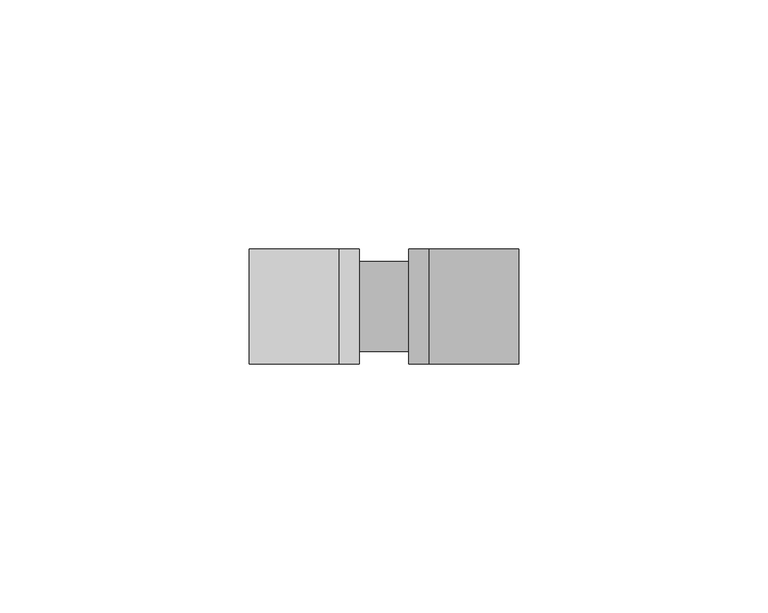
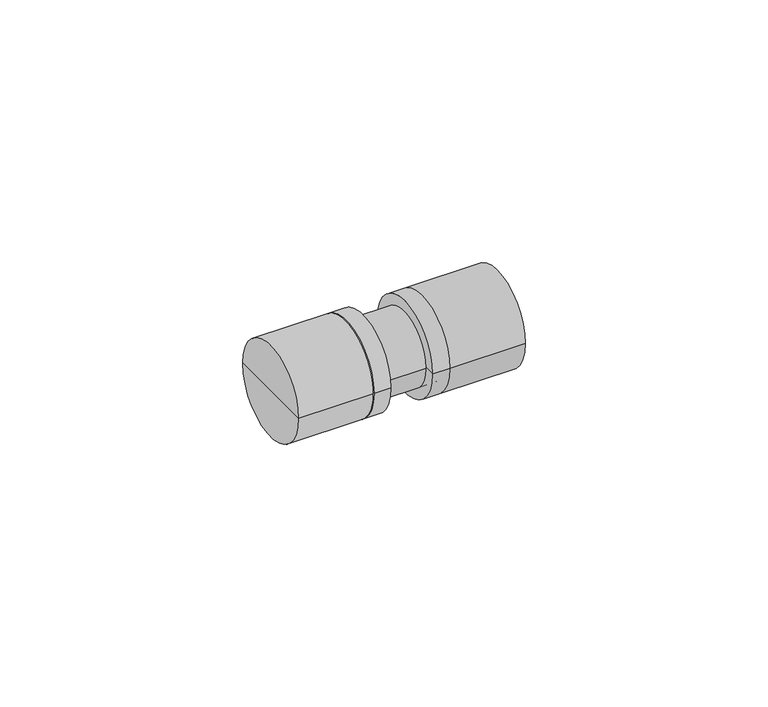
"""IFC4 building model written with IfcOpenShell, lengths in millimetres: pipe fitting geometry, KAN-therm Push 18x2 łącznik PPSU : KAN-therm Push 18x2 łącznik PPSU."""

from ifc_helpers import new_model, si_unit, frame, origin, place, context, project, spatial, circle_curve, source, transform, mapped, element, save
from ifc_brep_helpers import plane_surface, cylinder_surface, advanced_brep


def pipe_fitting_8b100cbf(model_context):
    return source(origin(), model_context, "Body", "AdvancedBrep", [
        advanced_brep(
        [(-9.0, -11.5, 0.0), (-9.0, 0.0, 0.0), (-9.0, 11.5, 0.0), (-5.0, -11.5, 0.0), (-5.0, 11.5, 0.0), (-5.0, 0.0, 0.0)],
        [
            (0, 1),
            (1, 2),
            (2, 0, circle_curve(frame((-9.0, 0.0, 0.0), z_axis=(-1.0, 0.0, 0.0), x_axis=(0.0, 1.0, 0.0)), 11.5)),
            (0, 2, circle_curve(frame((-9.0, 0.0, 0.0), z_axis=(-1.0, 0.0, 0.0), x_axis=(0.0, 1.0, 0.0)), 11.5)),
            (3, 0),
            (2, 4),
            (4, 3, circle_curve(frame((-5.0, 0.0, 0.0), z_axis=(-1.0, 0.0, 0.0), x_axis=(0.0, 1.0, 0.0)), 11.5)),
            (3, 4, circle_curve(frame((-5.0, 0.0, 0.0), z_axis=(-1.0, 0.0, 0.0), x_axis=(0.0, 1.0, 0.0)), 11.5)),
            (5, 3),
            (4, 5),
        ],
        [
            plane_surface(frame((-9.0, 0.0, 0.0), z_axis=(-1.0, 0.0, 0.0), x_axis=(0.0, 1.0, 0.0))),
            cylinder_surface(frame((-2004.0, 0.0, 0.0), z_axis=(1.0, 0.0, 0.0), x_axis=(0.0, 1.0, 0.0)), 11.5),
            plane_surface(frame((-5.0, 0.0, 0.0), z_axis=(1.0, 0.0, 0.0), x_axis=(0.0, 1.0, 0.0))),
        ],
        [
            (0, [[1, 2, 3]]),
            (0, [[-2, -1, 4]]),
            (1, [[5, -3, 6, 7]]),
            (1, [[-6, -4, -5, 8]]),
            (2, [[9, -7, 10]]),
            (2, [[-10, -8, -9]]),
        ],
    ),
        advanced_brep(
        [(-27.0, -11.5, 0.0), (-27.0, 0.0, 0.0), (-27.0, 11.5, 0.0), (-9.0, -11.5, 0.0), (-9.0, 11.5, 0.0), (-9.0, 0.0, 0.0)],
        [
            (0, 1),
            (1, 2),
            (2, 0, circle_curve(frame((-27.0, 0.0, 0.0), z_axis=(-1.0, 0.0, 0.0), x_axis=(0.0, 1.0, 0.0)), 11.5)),
            (0, 2, circle_curve(frame((-27.0, 0.0, 0.0), z_axis=(-1.0, 0.0, 0.0), x_axis=(0.0, 1.0, 0.0)), 11.5)),
            (3, 0),
            (2, 4),
            (4, 3, circle_curve(frame((-9.0, 0.0, 0.0), z_axis=(-1.0, 0.0, 0.0), x_axis=(0.0, 1.0, 0.0)), 11.5)),
            (3, 4, circle_curve(frame((-9.0, 0.0, 0.0), z_axis=(-1.0, 0.0, 0.0), x_axis=(0.0, 1.0, 0.0)), 11.5)),
            (5, 3),
            (4, 5),
        ],
        [
            plane_surface(frame((-27.0, 0.0, 0.0), z_axis=(-1.0, 0.0, 0.0), x_axis=(0.0, 1.0, 0.0))),
            cylinder_surface(frame((-2004.0, 0.0, 0.0), z_axis=(1.0, 0.0, 0.0), x_axis=(0.0, 1.0, 0.0)), 11.5),
            plane_surface(frame((-9.0, 0.0, 0.0), z_axis=(1.0, 0.0, 0.0), x_axis=(0.0, 1.0, 0.0))),
        ],
        [
            (0, [[1, 2, 3]]),
            (0, [[-2, -1, 4]]),
            (1, [[5, -3, 6, 7]]),
            (1, [[-6, -4, -5, 8]]),
            (2, [[9, -7, 10]]),
            (2, [[-10, -8, -9]]),
        ],
    ),
        advanced_brep(
        [(9.0, -11.5, 0.0), (9.0, 11.5, 0.0), (9.0, 0.0, 0.0), (5.0, -11.5, 0.0), (5.0, 11.5, 0.0), (5.0, 0.0, 0.0)],
        [
            (0, 1, circle_curve(frame((9.0, 0.0, 0.0), z_axis=(1.0, 0.0, 0.0), x_axis=(0.0, 1.0, 0.0)), 11.5)),
            (1, 2),
            (2, 0),
            (1, 0, circle_curve(frame((9.0, 0.0, 0.0), z_axis=(1.0, 0.0, 0.0), x_axis=(0.0, 1.0, 0.0)), 11.5)),
            (3, 4, circle_curve(frame((5.0, 0.0, 0.0), z_axis=(1.0, 0.0, 0.0), x_axis=(0.0, 1.0, 0.0)), 11.5)),
            (4, 1),
            (0, 3),
            (4, 3, circle_curve(frame((5.0, 0.0, 0.0), z_axis=(1.0, 0.0, 0.0), x_axis=(0.0, 1.0, 0.0)), 11.5)),
            (5, 4),
            (3, 5),
        ],
        [
            plane_surface(frame((9.0, 0.0, 0.0), z_axis=(1.0, 0.0, 0.0), x_axis=(0.0, 1.0, 0.0))),
            cylinder_surface(frame((2004.0, 0.0, 0.0), z_axis=(-1.0, 0.0, 0.0), x_axis=(0.0, 1.0, 0.0)), 11.5),
            plane_surface(frame((5.0, 0.0, 0.0), z_axis=(-1.0, 0.0, 0.0), x_axis=(0.0, 1.0, 0.0))),
        ],
        [
            (0, [[1, 2, 3]]),
            (0, [[4, -3, -2]]),
            (1, [[5, 6, -1, 7]]),
            (1, [[8, -7, -4, -6]]),
            (2, [[9, -5, 10]]),
            (2, [[-10, -8, -9]]),
        ],
    ),
        advanced_brep(
        [(27.0, -11.5, 0.0), (27.0, 11.5, 0.0), (27.0, 0.0, 0.0), (9.0, -11.5, 0.0), (9.0, 11.5, 0.0), (9.0, 0.0, 0.0)],
        [
            (0, 1, circle_curve(frame((27.0, 0.0, 0.0), z_axis=(1.0, 0.0, 0.0), x_axis=(0.0, 1.0, 0.0)), 11.5)),
            (1, 2),
            (2, 0),
            (1, 0, circle_curve(frame((27.0, 0.0, 0.0), z_axis=(1.0, 0.0, 0.0), x_axis=(0.0, 1.0, 0.0)), 11.5)),
            (3, 4, circle_curve(frame((9.0, 0.0, 0.0), z_axis=(1.0, 0.0, 0.0), x_axis=(0.0, 1.0, 0.0)), 11.5)),
            (4, 1),
            (0, 3),
            (4, 3, circle_curve(frame((9.0, 0.0, 0.0), z_axis=(1.0, 0.0, 0.0), x_axis=(0.0, 1.0, 0.0)), 11.5)),
            (5, 4),
            (3, 5),
        ],
        [
            plane_surface(frame((27.0, 0.0, 0.0), z_axis=(1.0, 0.0, 0.0), x_axis=(0.0, 1.0, 0.0))),
            cylinder_surface(frame((2004.0, 0.0, 0.0), z_axis=(-1.0, 0.0, 0.0), x_axis=(0.0, 1.0, 0.0)), 11.5),
            plane_surface(frame((9.0, 0.0, 0.0), z_axis=(-1.0, 0.0, 0.0), x_axis=(0.0, 1.0, 0.0))),
        ],
        [
            (0, [[1, 2, 3]]),
            (0, [[4, -3, -2]]),
            (1, [[5, 6, -1, 7]]),
            (1, [[8, -7, -4, -6]]),
            (2, [[9, -5, 10]]),
            (2, [[-10, -8, -9]]),
        ],
    ),
        advanced_brep(
        [(9.0, -9.0, 0.0), (9.0, 9.0, 0.0), (9.0, 0.0, 0.0), (-9.0, -9.0, 0.0), (-9.0, 9.0, 0.0), (-9.0, 0.0, 0.0)],
        [
            (0, 1, circle_curve(frame((9.0, 0.0, 0.0), z_axis=(1.0, 0.0, 0.0), x_axis=(0.0, 1.0, 0.0)), 9.0)),
            (1, 2),
            (2, 0),
            (1, 0, circle_curve(frame((9.0, 0.0, 0.0), z_axis=(1.0, 0.0, 0.0), x_axis=(0.0, 1.0, 0.0)), 9.0)),
            (3, 4, circle_curve(frame((-9.0, 0.0, 0.0), z_axis=(1.0, 0.0, 0.0), x_axis=(0.0, 1.0, 0.0)), 9.0)),
            (4, 1),
            (0, 3),
            (4, 3, circle_curve(frame((-9.0, 0.0, 0.0), z_axis=(1.0, 0.0, 0.0), x_axis=(0.0, 1.0, 0.0)), 9.0)),
            (5, 4),
            (3, 5),
        ],
        [
            plane_surface(frame((9.0, 0.0, 0.0), z_axis=(1.0, 0.0, 0.0), x_axis=(0.0, 1.0, 0.0))),
            cylinder_surface(frame((2003.0, 0.0, 0.0), z_axis=(-1.0, 0.0, 0.0), x_axis=(0.0, 1.0, 0.0)), 9.0),
            plane_surface(frame((-9.0, 0.0, 0.0), z_axis=(-1.0, 0.0, 0.0), x_axis=(0.0, 1.0, 0.0))),
        ],
        [
            (0, [[1, 2, 3]]),
            (0, [[4, -3, -2]]),
            (1, [[5, 6, -1, 7]]),
            (1, [[8, -7, -4, -6]]),
            (2, [[9, -5, 10]]),
            (2, [[-10, -8, -9]]),
        ],
    ),
    ])


if __name__ == "__main__":
    model = new_model("IFC4")
    model_context = context("Model", 3, world=origin())
    ifc_project = project(units=[si_unit("LENGTHUNIT", "METRE", prefix="MILLI")], contexts=[model_context])
    site = spatial("IfcSite", under=ifc_project)
    building = spatial("IfcBuilding", under=site)
    placement = place(None, origin())
    pipe_fitting_shape = pipe_fitting_8b100cbf(model_context)
    element("IfcPipeFitting", 1, ObjectType="KAN-therm Push 18x2 łącznik PPSU : KAN-therm Push 18x2 łącznik PPSU", at=placement, inside=building, context=model_context, shape_type="MappedRepresentation", body=[
        mapped(pipe_fitting_shape, transform((0.0, 0.0, 0.0), x_axis=(1.0, 0.0, 0.0), y_axis=(0.0, 1.0, 0.0), z_axis=(0.0, 0.0, 1.0))),
    ])
    save(model, "model.ifc")
